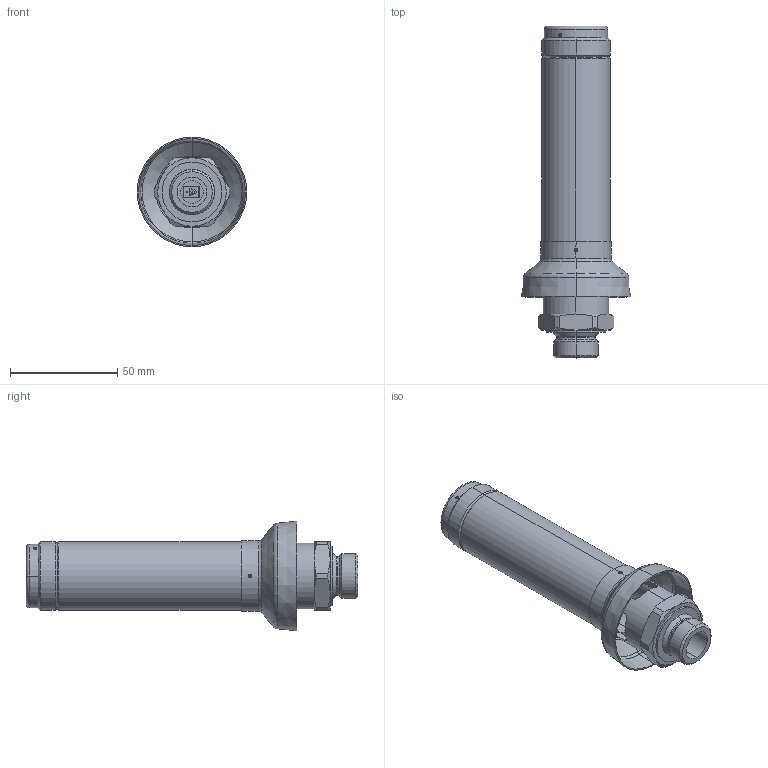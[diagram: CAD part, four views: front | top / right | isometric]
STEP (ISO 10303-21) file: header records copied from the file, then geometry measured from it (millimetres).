
FILE_DESCRIPTION (( 'STEP AP214' ), '1' );
FILE_NAME ('812sGK15-M-15 LLB-DN15.STEP', '2022-04-19T06:41:12', ( '' ), ( '' ), 'SwSTEP 2.0', 'SolidWorks 2020', '' );
FILE_SCHEMA (( 'AUTOMOTIVE_DESIGN' ));
Length unit declared in the file: millimetre
Products named in the file (1): 812sGK15-M-15 LLB-DN15
Bounding box: 51.19 x 155.1 x 51.19 mm (x, y, z)
Volume: 52134.5 mm3; surface area: 42673.4 mm2
Topology: 5 solids, 5 shells, 330 faces, 801 edges, 506 vertices
Faces by surface type: cylinder 113, plane 71, cone 66, sphere 28, bspline 28, torus 24
Entity records: 15485 total; most frequent: CARTESIAN_POINT 4070, DIRECTION 1651, ORIENTED_EDGE 1602, EDGE_CURVE 801, AXIS2_PLACEMENT_3D 691, VERTEX_POINT 506, CIRCLE 388, EDGE_LOOP 371
